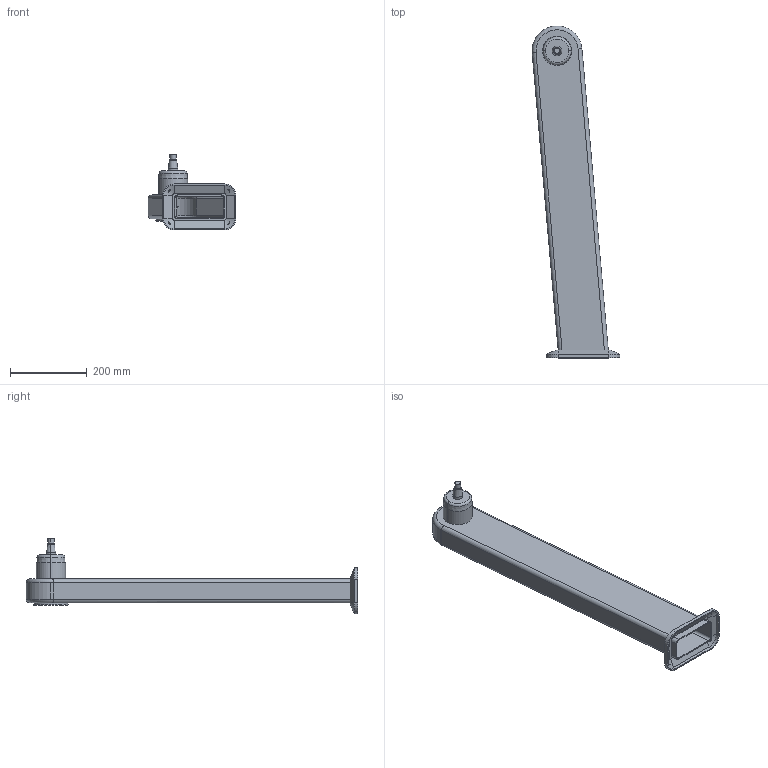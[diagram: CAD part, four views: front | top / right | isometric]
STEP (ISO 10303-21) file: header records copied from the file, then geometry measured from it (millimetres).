
FILE_DESCRIPTION (( 'STEP AP214' ), '1' );
FILE_NAME ('WP710_H800_-05.STEP', '2014-06-27T07:56:30', ( '' ), ( '' ), 'SwSTEP 2.0', 'SolidWorks 2014', '' );
FILE_SCHEMA (( 'AUTOMOTIVE_DESIGN' ));
Length unit declared in the file: millimetre
Products named in the file (1): WP710_H800_-05
Bounding box: 228.74 x 864.94 x 198 mm (x, y, z)
Volume: 1347392.4 mm3; surface area: 683423.5 mm2
Topology: 1 solids, 1 shells, 112 faces, 250 edges, 152 vertices
Faces by surface type: cylinder 44, plane 40, cone 20, torus 8
Entity records: 3211 total; most frequent: CARTESIAN_POINT 668, DIRECTION 552, ORIENTED_EDGE 500, EDGE_CURVE 250, AXIS2_PLACEMENT_3D 211, VERTEX_POINT 152, LINE 130, VECTOR 130
